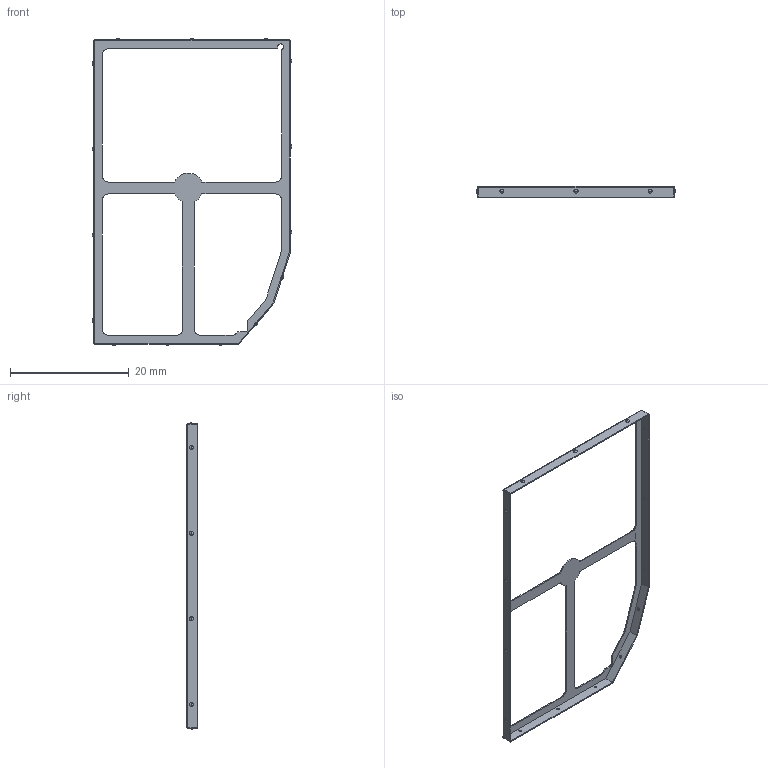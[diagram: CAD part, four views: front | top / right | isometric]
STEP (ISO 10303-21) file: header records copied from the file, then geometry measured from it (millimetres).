
FILE_DESCRIPTION((''),'2;1');
FILE_NAME('GTC01-A-MCS06-BB-FRAME_PRT','2008-06-30T',('GRA'),(''),'PRO/ENGINEER BY PARAMETRIC TECHNOLOGY CORPORATION, 2006170','PRO/ENGINEER BY PARAMETRIC TECHNOLOGY CORPORATION, 2006170','');
FILE_SCHEMA(('CONFIG_CONTROL_DESIGN'));
Length unit declared in the file: millimetre
Products named in the file (1): GTC01-A-MCS06-BB-FRAME_PRT
Bounding box: 33.62 x 1.8 x 51.75 mm (x, y, z)
Volume: 120.8 mm3; surface area: 1294.9 mm2
Topology: 1 solids, 1 shells, 152 faces, 402 edges, 220 vertices
Faces by surface type: plane 70, sphere 60, cylinder 22
Entity records: 4334 total; most frequent: DIRECTION 798, CARTESIAN_POINT 744, ORIENTED_EDGE 684, EDGE_CURVE 342, AXIS2_PLACEMENT_3D 316, VERTEX_POINT 220, EDGE_LOOP 186, VECTOR 166
